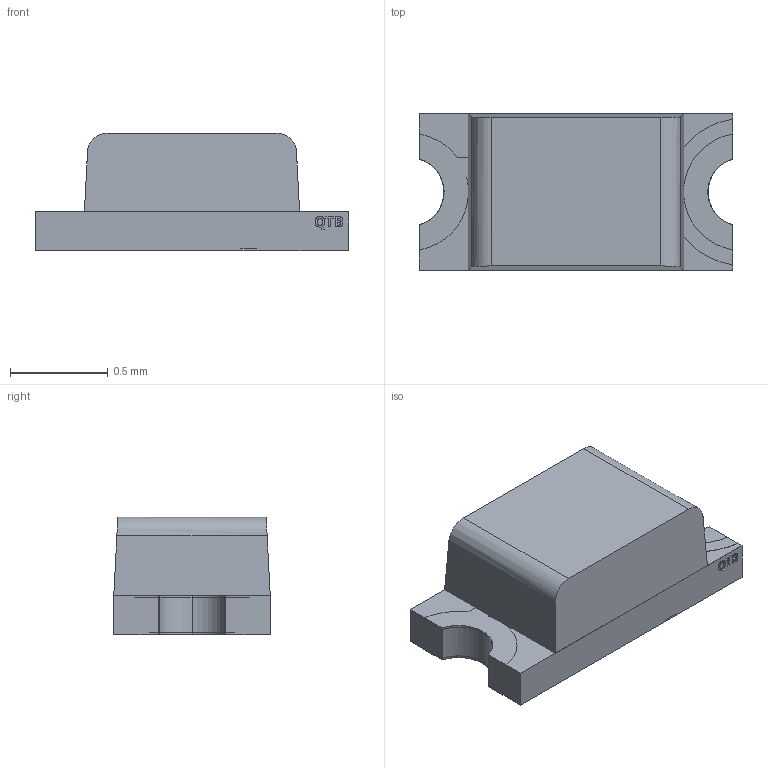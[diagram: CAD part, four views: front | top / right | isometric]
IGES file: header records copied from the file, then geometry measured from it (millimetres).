
Start section: Data from Parasolid IGES Translator 23.1.110, Copyright(c) 2006 Siemens PLM Software. All Rights Reserved.
Global section: file name: 5fab0a911f53bf0e7c10a461.iges; native system: By Siemens PLM Incorporated; preprocessor: XPlus GENERIC/IGES 23.1.110; author: Noname; organization: Noname; date: 20201110.214801; units: metre
Bounding box: 1.6 x 0.8 x 0.6 mm (x, y, z)
Surface area: 9 mm2 (no closed solid volume)
Topology: 0 solids, 0 shells, 189 faces, 968 edges, 968 vertices
Faces by surface type: extrusion 152, revolution 37
